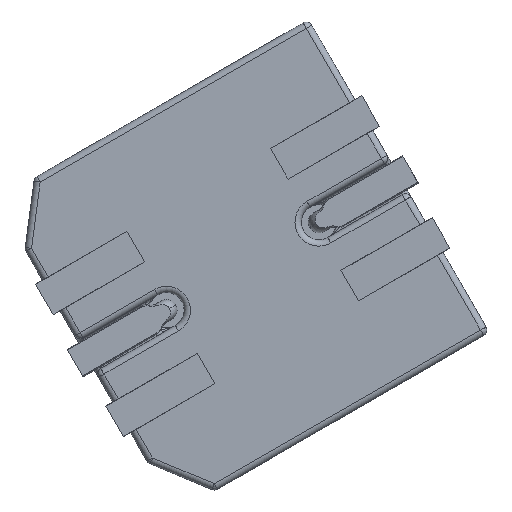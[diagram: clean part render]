
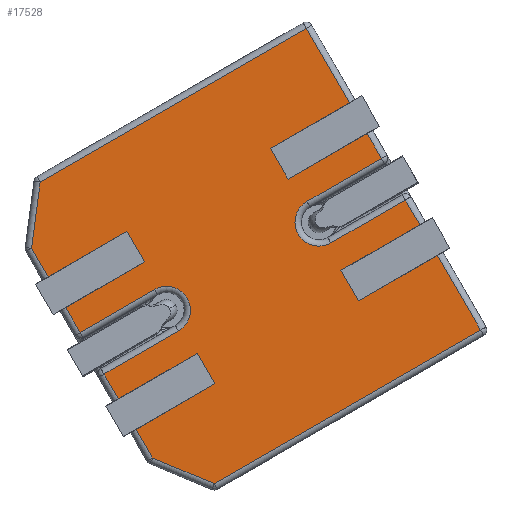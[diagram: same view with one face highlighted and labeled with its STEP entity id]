
A CAD part, left-side view. The second image highlights one B-rep face of the part: STEP entity #17528.
In plain terms, the highlighted planar face has unit normal (-1, 0, 0) as drawn and (0, -1, 0) by its records, which use the part's own axes.
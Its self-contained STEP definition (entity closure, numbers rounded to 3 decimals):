
#14702=DIRECTION('',(0.,0.,-1.));
#14703=VECTOR('',#14702,2.59);
#14704=CARTESIAN_POINT('',(1.5,0.,4.945));
#14705=LINE('',#14704,#14703);
#14706=DIRECTION('',(1.,0.,0.));
#14707=VECTOR('',#14706,1.);
#14708=CARTESIAN_POINT('',(1.5,0.,2.355));
#14709=LINE('',#14708,#14707);
#14710=DIRECTION('',(0.,0.,-1.));
#14711=VECTOR('',#14710,2.59);
#14712=CARTESIAN_POINT('',(2.5,0.,4.945));
#14713=LINE('',#14712,#14711);
#14714=DIRECTION('',(-1.,0.,0.));
#14715=VECTOR('',#14714,0.939);
#14716=CARTESIAN_POINT('',(3.439,0.,4.945));
#14717=LINE('',#14716,#14715);
#14718=DIRECTION('',(-0.794,0.,0.609));
#14719=VECTOR('',#14718,1.904);
#14720=CARTESIAN_POINT('',(4.95,0.,3.786));
#14721=LINE('',#14720,#14719);
#14722=DIRECTION('',(0.,0.,1.));
#14723=VECTOR('',#14722,8.731);
#14724=CARTESIAN_POINT('',(4.95,0.,-4.945));
#14725=LINE('',#14724,#14723);
#14726=DIRECTION('',(1.,0.,0.));
#14727=VECTOR('',#14726,2.45);
#14728=CARTESIAN_POINT('',(2.5,0.,-4.945));
#14729=LINE('',#14728,#14727);
#14730=DIRECTION('',(0.,0.,1.));
#14731=VECTOR('',#14730,2.59);
#14732=CARTESIAN_POINT('',(2.5,0.,-4.945));
#14733=LINE('',#14732,#14731);
#14734=DIRECTION('',(-1.,0.,0.));
#14735=VECTOR('',#14734,1.);
#14736=CARTESIAN_POINT('',(2.5,0.,-2.355));
#14737=LINE('',#14736,#14735);
#14738=DIRECTION('',(0.,0.,1.));
#14739=VECTOR('',#14738,2.59);
#14740=CARTESIAN_POINT('',(1.5,0.,-4.945));
#14741=LINE('',#14740,#14739);
#14742=DIRECTION('',(1.,0.,0.));
#14743=VECTOR('',#14742,0.82);
#14744=CARTESIAN_POINT('',(0.68,0.,-4.945));
#14745=LINE('',#14744,#14743);
#14746=DIRECTION('',(0.,0.,-1.));
#14747=VECTOR('',#14746,2.445);
#14748=CARTESIAN_POINT('',(0.68,0.,-2.5));
#14749=LINE('',#14748,#14747);
#14750=DIRECTION('',(0.,0.,1.));
#14751=VECTOR('',#14750,2.445);
#14752=CARTESIAN_POINT('',(-0.68,0.,-4.945));
#14753=LINE('',#14752,#14751);
#14754=DIRECTION('',(1.,0.,0.));
#14755=VECTOR('',#14754,0.82);
#14756=CARTESIAN_POINT('',(-1.5,0.,-4.945));
#14757=LINE('',#14756,#14755);
#14758=DIRECTION('',(0.,0.,1.));
#14759=VECTOR('',#14758,2.59);
#14760=CARTESIAN_POINT('',(-1.5,0.,-4.945));
#14761=LINE('',#14760,#14759);
#14762=DIRECTION('',(-1.,0.,0.));
#14763=VECTOR('',#14762,1.);
#14764=CARTESIAN_POINT('',(-1.5,0.,-2.355));
#14765=LINE('',#14764,#14763);
#14766=DIRECTION('',(0.,0.,1.));
#14767=VECTOR('',#14766,2.59);
#14768=CARTESIAN_POINT('',(-2.5,0.,-4.945));
#14769=LINE('',#14768,#14767);
#14770=DIRECTION('',(1.,0.,0.));
#14771=VECTOR('',#14770,2.45);
#14772=CARTESIAN_POINT('',(-4.95,0.,-4.945));
#14773=LINE('',#14772,#14771);
#14774=DIRECTION('',(0.,0.,1.));
#14775=VECTOR('',#14774,8.731);
#14776=CARTESIAN_POINT('',(-4.95,0.,-4.945));
#14777=LINE('',#14776,#14775);
#14778=DIRECTION('',(-0.794,0.,-0.609));
#14779=VECTOR('',#14778,1.904);
#14780=CARTESIAN_POINT('',(-3.439,0.,4.945));
#14781=LINE('',#14780,#14779);
#14782=DIRECTION('',(-1.,0.,0.));
#14783=VECTOR('',#14782,0.939);
#14784=CARTESIAN_POINT('',(-2.5,0.,4.945));
#14785=LINE('',#14784,#14783);
#14786=DIRECTION('',(0.,0.,-1.));
#14787=VECTOR('',#14786,2.59);
#14788=CARTESIAN_POINT('',(-2.5,0.,4.945));
#14789=LINE('',#14788,#14787);
#14790=DIRECTION('',(1.,0.,0.));
#14791=VECTOR('',#14790,1.);
#14792=CARTESIAN_POINT('',(-2.5,0.,2.355));
#14793=LINE('',#14792,#14791);
#14794=DIRECTION('',(0.,0.,-1.));
#14795=VECTOR('',#14794,2.59);
#14796=CARTESIAN_POINT('',(-1.5,0.,4.945));
#14797=LINE('',#14796,#14795);
#14798=DIRECTION('',(-1.,0.,0.));
#14799=VECTOR('',#14798,0.82);
#14800=CARTESIAN_POINT('',(-0.68,0.,4.945));
#14801=LINE('',#14800,#14799);
#14802=DIRECTION('',(0.,0.,1.));
#14803=VECTOR('',#14802,2.445);
#14804=CARTESIAN_POINT('',(-0.68,0.,2.5));
#14805=LINE('',#14804,#14803);
#14806=DIRECTION('',(0.,0.,-1.));
#14807=VECTOR('',#14806,2.445);
#14808=CARTESIAN_POINT('',(0.68,0.,4.945));
#14809=LINE('',#14808,#14807);
#14810=DIRECTION('',(-1.,0.,0.));
#14811=VECTOR('',#14810,0.82);
#14812=CARTESIAN_POINT('',(1.5,0.,4.945));
#14813=LINE('',#14812,#14811);
#16762=CARTESIAN_POINT('',(0.,0.,2.5));
#16763=DIRECTION('',(0.,1.,0.));
#16764=DIRECTION('',(1.,0.,0.));
#16765=AXIS2_PLACEMENT_3D('',#16762,#16763,#16764);
#16939=CARTESIAN_POINT('',(0.,0.,-2.5));
#16940=DIRECTION('',(0.,1.,0.));
#16941=DIRECTION('',(-1.,0.,0.));
#16942=AXIS2_PLACEMENT_3D('',#16939,#16940,#16941);
#17113=CARTESIAN_POINT('',(4.95,0.,-4.945));
#17114=CARTESIAN_POINT('',(4.95,0.,3.786));
#17115=VERTEX_POINT('',#17113);
#17116=VERTEX_POINT('',#17114);
#17117=CARTESIAN_POINT('',(-4.95,0.,3.786));
#17119=VERTEX_POINT('',#17117);
#17122=CARTESIAN_POINT('',(-3.439,0.,4.945));
#17124=VERTEX_POINT('',#17122);
#17183=CARTESIAN_POINT('',(-0.68,0.,-2.5));
#17184=CARTESIAN_POINT('',(0.68,0.,-2.5));
#17185=VERTEX_POINT('',#17183);
#17186=VERTEX_POINT('',#17184);
#17193=CARTESIAN_POINT('',(0.68,0.,2.5));
#17194=VERTEX_POINT('',#17193);
#17195=CARTESIAN_POINT('',(-0.68,0.,2.5));
#17196=VERTEX_POINT('',#17195);
#17217=CARTESIAN_POINT('',(3.439,0.,4.945));
#17218=VERTEX_POINT('',#17217);
#17245=CARTESIAN_POINT('',(-0.68,0.,-4.945));
#17246=VERTEX_POINT('',#17245);
#17247=CARTESIAN_POINT('',(0.68,0.,-4.945));
#17248=VERTEX_POINT('',#17247);
#17251=CARTESIAN_POINT('',(0.68,0.,4.945));
#17252=VERTEX_POINT('',#17251);
#17253=CARTESIAN_POINT('',(-0.68,0.,4.945));
#17254=VERTEX_POINT('',#17253);
#17281=CARTESIAN_POINT('',(-4.95,0.,-4.945));
#17282=VERTEX_POINT('',#17281);
#17429=CARTESIAN_POINT('',(-2.5,0.,4.945));
#17430=VERTEX_POINT('',#17429);
#17431=CARTESIAN_POINT('',(-1.5,0.,4.945));
#17432=VERTEX_POINT('',#17431);
#17433=CARTESIAN_POINT('',(-1.5,0.,-4.945));
#17434=VERTEX_POINT('',#17433);
#17435=CARTESIAN_POINT('',(-2.5,0.,-4.945));
#17436=VERTEX_POINT('',#17435);
#17437=CARTESIAN_POINT('',(2.5,0.,-4.945));
#17438=VERTEX_POINT('',#17437);
#17439=CARTESIAN_POINT('',(1.5,0.,-4.945));
#17440=VERTEX_POINT('',#17439);
#17441=CARTESIAN_POINT('',(1.5,0.,4.945));
#17442=VERTEX_POINT('',#17441);
#17443=CARTESIAN_POINT('',(2.5,0.,4.945));
#17444=VERTEX_POINT('',#17443);
#17445=CARTESIAN_POINT('',(1.5,0.,2.355));
#17446=VERTEX_POINT('',#17445);
#17447=CARTESIAN_POINT('',(2.5,0.,2.355));
#17448=VERTEX_POINT('',#17447);
#17449=CARTESIAN_POINT('',(-2.5,0.,2.355));
#17450=VERTEX_POINT('',#17449);
#17451=CARTESIAN_POINT('',(-1.5,0.,2.355));
#17452=VERTEX_POINT('',#17451);
#17453=CARTESIAN_POINT('',(2.5,0.,-2.355));
#17454=VERTEX_POINT('',#17453);
#17455=CARTESIAN_POINT('',(1.5,0.,-2.355));
#17456=VERTEX_POINT('',#17455);
#17457=CARTESIAN_POINT('',(-1.5,0.,-2.355));
#17458=VERTEX_POINT('',#17457);
#17459=CARTESIAN_POINT('',(-2.5,0.,-2.355));
#17460=VERTEX_POINT('',#17459);
#17461=CARTESIAN_POINT('',(0.,0.,0.));
#17462=DIRECTION('',(0.,1.,0.));
#17463=DIRECTION('',(0.,0.,1.));
#17464=AXIS2_PLACEMENT_3D('',#17461,#17462,#17463);
#17465=PLANE('',#17464);
#17467=ORIENTED_EDGE('',*,*,#17466,.T.);
#17469=ORIENTED_EDGE('',*,*,#17468,.T.);
#17471=ORIENTED_EDGE('',*,*,#17470,.F.);
#17473=ORIENTED_EDGE('',*,*,#17472,.F.);
#17475=ORIENTED_EDGE('',*,*,#17474,.F.);
#17477=ORIENTED_EDGE('',*,*,#17476,.F.);
#17479=ORIENTED_EDGE('',*,*,#17478,.F.);
#17481=ORIENTED_EDGE('',*,*,#17480,.T.);
#17483=ORIENTED_EDGE('',*,*,#17482,.T.);
#17485=ORIENTED_EDGE('',*,*,#17484,.F.);
#17487=ORIENTED_EDGE('',*,*,#17486,.F.);
#17489=ORIENTED_EDGE('',*,*,#17488,.F.);
#17491=ORIENTED_EDGE('',*,*,#17490,.F.);
#17493=ORIENTED_EDGE('',*,*,#17492,.F.);
#17495=ORIENTED_EDGE('',*,*,#17494,.F.);
#17497=ORIENTED_EDGE('',*,*,#17496,.T.);
#17499=ORIENTED_EDGE('',*,*,#17498,.T.);
#17501=ORIENTED_EDGE('',*,*,#17500,.F.);
#17503=ORIENTED_EDGE('',*,*,#17502,.F.);
#17505=ORIENTED_EDGE('',*,*,#17504,.T.);
#17507=ORIENTED_EDGE('',*,*,#17506,.F.);
#17509=ORIENTED_EDGE('',*,*,#17508,.F.);
#17511=ORIENTED_EDGE('',*,*,#17510,.T.);
#17513=ORIENTED_EDGE('',*,*,#17512,.T.);
#17515=ORIENTED_EDGE('',*,*,#17514,.F.);
#17517=ORIENTED_EDGE('',*,*,#17516,.F.);
#17519=ORIENTED_EDGE('',*,*,#17518,.F.);
#17521=ORIENTED_EDGE('',*,*,#17520,.F.);
#17523=ORIENTED_EDGE('',*,*,#17522,.F.);
#17525=ORIENTED_EDGE('',*,*,#17524,.F.);
#17526=EDGE_LOOP('',(#17467,#17469,#17471,#17473,#17475,#17477,#17479,#17481,
#17483,#17485,#17487,#17489,#17491,#17493,#17495,#17497,#17499,#17501,#17503,
#17505,#17507,#17509,#17511,#17513,#17515,#17517,#17519,#17521,#17523,#17525));
#17527=FACE_OUTER_BOUND('',#17526,.F.);
#17528=ADVANCED_FACE('',(#17527),#17465,.F.);
#16766=CIRCLE('',#16765,0.68);
#16943=CIRCLE('',#16942,0.68);
#17466=EDGE_CURVE('',#17442,#17446,#14705,.T.);
#17468=EDGE_CURVE('',#17446,#17448,#14709,.T.);
#17470=EDGE_CURVE('',#17444,#17448,#14713,.T.);
#17472=EDGE_CURVE('',#17218,#17444,#14717,.T.);
#17474=EDGE_CURVE('',#17116,#17218,#14721,.T.);
#17476=EDGE_CURVE('',#17115,#17116,#14725,.T.);
#17478=EDGE_CURVE('',#17438,#17115,#14729,.T.);
#17480=EDGE_CURVE('',#17438,#17454,#14733,.T.);
#17482=EDGE_CURVE('',#17454,#17456,#14737,.T.);
#17484=EDGE_CURVE('',#17440,#17456,#14741,.T.);
#17486=EDGE_CURVE('',#17248,#17440,#14745,.T.);
#17488=EDGE_CURVE('',#17186,#17248,#14749,.T.);
#17490=EDGE_CURVE('',#17185,#17186,#16943,.T.);
#17492=EDGE_CURVE('',#17246,#17185,#14753,.T.);
#17494=EDGE_CURVE('',#17434,#17246,#14757,.T.);
#17496=EDGE_CURVE('',#17434,#17458,#14761,.T.);
#17498=EDGE_CURVE('',#17458,#17460,#14765,.T.);
#17500=EDGE_CURVE('',#17436,#17460,#14769,.T.);
#17502=EDGE_CURVE('',#17282,#17436,#14773,.T.);
#17504=EDGE_CURVE('',#17282,#17119,#14777,.T.);
#17506=EDGE_CURVE('',#17124,#17119,#14781,.T.);
#17508=EDGE_CURVE('',#17430,#17124,#14785,.T.);
#17510=EDGE_CURVE('',#17430,#17450,#14789,.T.);
#17512=EDGE_CURVE('',#17450,#17452,#14793,.T.);
#17514=EDGE_CURVE('',#17432,#17452,#14797,.T.);
#17516=EDGE_CURVE('',#17254,#17432,#14801,.T.);
#17518=EDGE_CURVE('',#17196,#17254,#14805,.T.);
#17520=EDGE_CURVE('',#17194,#17196,#16766,.T.);
#17522=EDGE_CURVE('',#17252,#17194,#14809,.T.);
#17524=EDGE_CURVE('',#17442,#17252,#14813,.T.);
